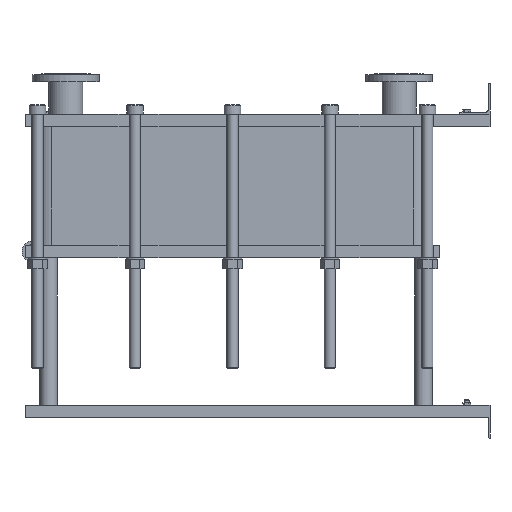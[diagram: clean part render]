
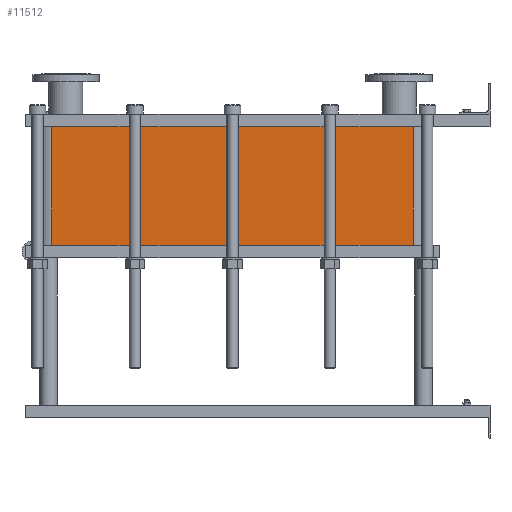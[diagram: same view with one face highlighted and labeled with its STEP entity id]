
A CAD part, left-side view. The second image highlights one B-rep face of the part: STEP entity #11512.
In plain terms, the highlighted planar face has unit normal (-1, 0, 0).
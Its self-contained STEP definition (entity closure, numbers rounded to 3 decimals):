
#1129=LINE('',#23232,#2102);
#1130=LINE('',#23236,#2103);
#1131=LINE('',#23238,#2104);
#1132=LINE('',#23239,#2105);
#2102=VECTOR('',#15887,10.);
#2103=VECTOR('',#15892,10.);
#2104=VECTOR('',#15893,10.);
#2105=VECTOR('',#15894,10.);
#3267=FACE_OUTER_BOUND('',#4093,.T.);
#4093=EDGE_LOOP('',(#10103,#10104,#10105,#10106));
#5642=VERTEX_POINT('',#23229);
#5643=VERTEX_POINT('',#23231);
#5644=VERTEX_POINT('',#23235);
#5645=VERTEX_POINT('',#23237);
#7159=EDGE_CURVE('',#5643,#5642,#1129,.T.);
#7161=EDGE_CURVE('',#5642,#5644,#1130,.T.);
#7162=EDGE_CURVE('',#5645,#5644,#1131,.T.);
#7163=EDGE_CURVE('',#5645,#5643,#1132,.T.);
#10103=ORIENTED_EDGE('',*,*,#7161,.T.);
#10104=ORIENTED_EDGE('',*,*,#7162,.F.);
#10105=ORIENTED_EDGE('',*,*,#7163,.T.);
#10106=ORIENTED_EDGE('',*,*,#7159,.T.);
#10857=PLANE('',#12751);
#11512=ADVANCED_FACE('',(#3267),#10857,.T.);
#12751=AXIS2_PLACEMENT_3D('',#23234,#15890,#15891);
#15887=DIRECTION('',(0.,0.,-1.));
#15890=DIRECTION('center_axis',(-1.,0.,0.));
#15891=DIRECTION('ref_axis',(0.,1.,0.));
#15892=DIRECTION('',(0.,-1.,0.));
#15893=DIRECTION('',(0.,0.,-1.));
#15894=DIRECTION('',(0.,1.,0.));
#23229=CARTESIAN_POINT('',(-200.,1414.,-382.95));
#23231=CARTESIAN_POINT('',(-200.,1414.,0.));
#23232=CARTESIAN_POINT('',(-200.,1414.,0.));
#23234=CARTESIAN_POINT('Origin',(-200.,248.,0.));
#23235=CARTESIAN_POINT('',(-200.,248.,-382.95));
#23236=CARTESIAN_POINT('',(-200.,539.5,-382.95));
#23237=CARTESIAN_POINT('',(-200.,248.,0.));
#23238=CARTESIAN_POINT('',(-200.,248.,0.));
#23239=CARTESIAN_POINT('',(-200.,248.,0.));
